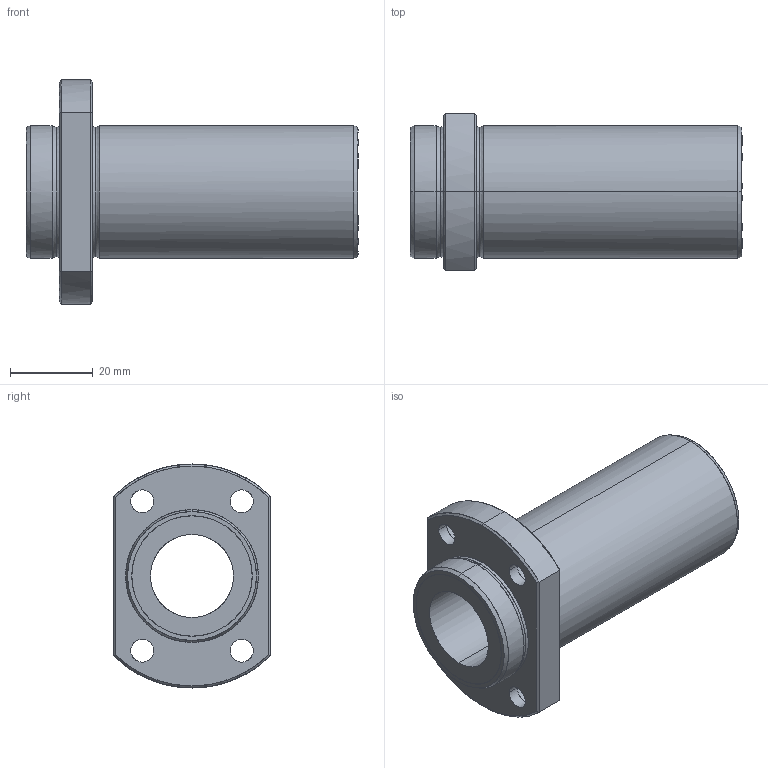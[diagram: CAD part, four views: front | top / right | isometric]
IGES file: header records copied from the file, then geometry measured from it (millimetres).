
Global section: file name: No Iges File Name specified; native system: AutoDesk Inventor R10; preprocessor: AutoDesk Inventor Iges Exporter R10; author: No Author specified; organization: No Organization specified; date: 20101209.174058; units: millimetre
Bounding box: 80 x 38 x 54 mm (x, y, z)
Surface area: 17152.6 mm2 (no closed solid volume)
Topology: 0 solids, 0 shells, 66 faces, 416 edges, 416 vertices
Faces by surface type: bspline 66
